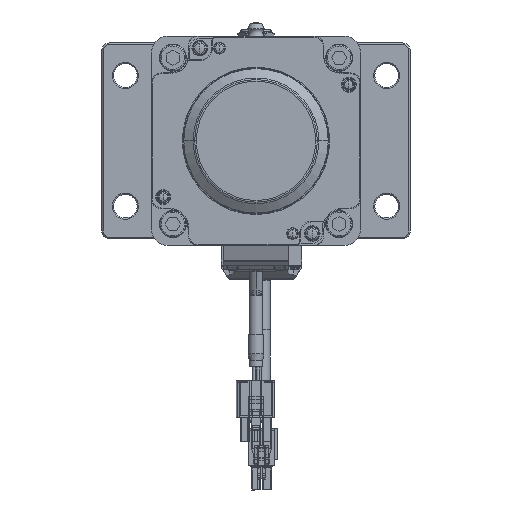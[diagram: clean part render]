
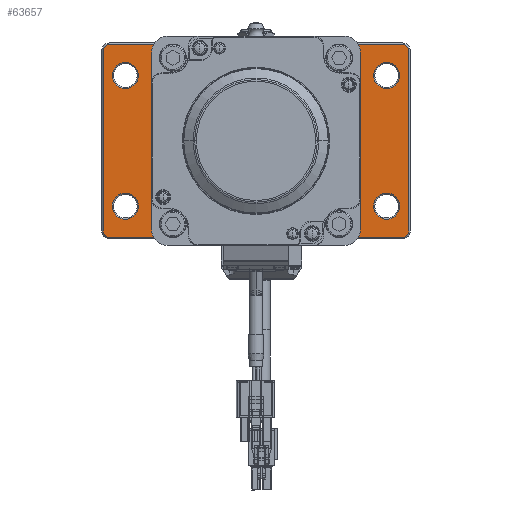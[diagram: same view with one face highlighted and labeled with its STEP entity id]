
A CAD part, front view. The second image highlights one B-rep face of the part: STEP entity #63657.
In plain terms, the highlighted planar face has unit normal (0, -1, 0).
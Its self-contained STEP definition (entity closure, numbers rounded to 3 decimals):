
#62324=CARTESIAN_POINT('',(0.,-6.,0.));
#62325=DIRECTION('',(0.,1.,0.));
#62326=DIRECTION('',(-1.,0.,0.));
#62327=AXIS2_PLACEMENT_3D('',#62324,#62325,#62326);
#62329=CARTESIAN_POINT('',(0.,-6.,0.));
#62330=DIRECTION('',(0.,1.,0.));
#62331=DIRECTION('',(1.,0.,0.));
#62332=AXIS2_PLACEMENT_3D('',#62329,#62330,#62331);
#62334=CARTESIAN_POINT('',(-50.,-6.,25.));
#62335=DIRECTION('',(0.,1.,0.));
#62336=DIRECTION('',(1.,0.,0.));
#62337=AXIS2_PLACEMENT_3D('',#62334,#62335,#62336);
#62339=CARTESIAN_POINT('',(-50.,-6.,25.));
#62340=DIRECTION('',(0.,1.,0.));
#62341=DIRECTION('',(-1.,0.,0.));
#62342=AXIS2_PLACEMENT_3D('',#62339,#62340,#62341);
#62344=CARTESIAN_POINT('',(50.,-6.,25.));
#62345=DIRECTION('',(0.,1.,0.));
#62346=DIRECTION('',(1.,0.,0.));
#62347=AXIS2_PLACEMENT_3D('',#62344,#62345,#62346);
#62349=CARTESIAN_POINT('',(50.,-6.,25.));
#62350=DIRECTION('',(0.,1.,0.));
#62351=DIRECTION('',(-1.,0.,0.));
#62352=AXIS2_PLACEMENT_3D('',#62349,#62350,#62351);
#62354=CARTESIAN_POINT('',(50.,-6.,-25.));
#62355=DIRECTION('',(0.,1.,0.));
#62356=DIRECTION('',(1.,0.,0.));
#62357=AXIS2_PLACEMENT_3D('',#62354,#62355,#62356);
#62359=CARTESIAN_POINT('',(50.,-6.,-25.));
#62360=DIRECTION('',(0.,1.,0.));
#62361=DIRECTION('',(-1.,0.,0.));
#62362=AXIS2_PLACEMENT_3D('',#62359,#62360,#62361);
#62364=CARTESIAN_POINT('',(-50.,-6.,-25.));
#62365=DIRECTION('',(0.,1.,0.));
#62366=DIRECTION('',(1.,0.,0.));
#62367=AXIS2_PLACEMENT_3D('',#62364,#62365,#62366);
#62369=CARTESIAN_POINT('',(-50.,-6.,-25.));
#62370=DIRECTION('',(0.,1.,0.));
#62371=DIRECTION('',(-1.,0.,0.));
#62372=AXIS2_PLACEMENT_3D('',#62369,#62370,#62371);
#62374=CARTESIAN_POINT('',(-56.,-6.,34.5));
#62375=DIRECTION('',(0.,-1.,0.));
#62376=DIRECTION('',(0.,0.,1.));
#62377=AXIS2_PLACEMENT_3D('',#62374,#62375,#62376);
#62379=DIRECTION('',(-1.,0.,0.));
#62380=VECTOR('',#62379,112.);
#62381=CARTESIAN_POINT('',(56.,-6.,
37.));
#62382=LINE('',#62381,#62380);
#62383=CARTESIAN_POINT('',(56.,-6.,34.5));
#62384=DIRECTION('',(0.,-1.,0.));
#62385=DIRECTION('',(1.,0.,0.));
#62386=AXIS2_PLACEMENT_3D('',#62383,#62384,#62385);
#62388=DIRECTION('',(0.,0.,1.));
#62389=VECTOR('',#62388,69.);
#62390=CARTESIAN_POINT('',(58.5,-6.,
-34.5));
#62391=LINE('',#62390,#62389);
#62392=CARTESIAN_POINT('',(56.,-6.,-34.5));
#62393=DIRECTION('',(0.,-1.,0.));
#62394=DIRECTION('',(0.,0.,-1.));
#62395=AXIS2_PLACEMENT_3D('',#62392,#62393,#62394);
#62397=DIRECTION('',(1.,0.,0.));
#62398=VECTOR('',#62397,112.);
#62399=CARTESIAN_POINT('',(-56.,-6.,
-37.));
#62400=LINE('',#62399,#62398);
#62401=CARTESIAN_POINT('',(-56.,-6.,-34.5));
#62402=DIRECTION('',(0.,-1.,0.));
#62403=DIRECTION('',(-1.,0.,0.));
#62404=AXIS2_PLACEMENT_3D('',#62401,#62402,#62403);
#62406=DIRECTION('',(0.,0.,-1.));
#62407=VECTOR('',#62406,69.);
#62408=CARTESIAN_POINT('',(-58.5,-6.,
34.5));
#62409=LINE('',#62408,#62407);
#62410=CARTESIAN_POINT('',(28.25,-6.,-28.25));
#62411=DIRECTION('',(0.,1.,0.));
#62412=DIRECTION('',(1.,0.,0.));
#62413=AXIS2_PLACEMENT_3D('',#62410,#62411,#62412);
#62415=CARTESIAN_POINT('',(28.25,-6.,-28.25));
#62416=DIRECTION('',(0.,1.,0.));
#62417=DIRECTION('',(-1.,0.,0.));
#62418=AXIS2_PLACEMENT_3D('',#62415,#62416,#62417);
#62420=CARTESIAN_POINT('',(-28.25,-6.,-28.25));
#62421=DIRECTION('',(0.,1.,0.));
#62422=DIRECTION('',(1.,0.,0.));
#62423=AXIS2_PLACEMENT_3D('',#62420,#62421,#62422);
#62425=CARTESIAN_POINT('',(-28.25,-6.,-28.25));
#62426=DIRECTION('',(0.,1.,0.));
#62427=DIRECTION('',(-1.,0.,0.));
#62428=AXIS2_PLACEMENT_3D('',#62425,#62426,#62427);
#62430=CARTESIAN_POINT('',(28.25,-6.,28.25));
#62431=DIRECTION('',(0.,1.,0.));
#62432=DIRECTION('',(1.,0.,0.));
#62433=AXIS2_PLACEMENT_3D('',#62430,#62431,#62432);
#62435=CARTESIAN_POINT('',(28.25,-6.,28.25));
#62436=DIRECTION('',(0.,1.,0.));
#62437=DIRECTION('',(-1.,0.,0.));
#62438=AXIS2_PLACEMENT_3D('',#62435,#62436,#62437);
#62440=CARTESIAN_POINT('',(-28.25,-6.,28.25));
#62441=DIRECTION('',(0.,1.,0.));
#62442=DIRECTION('',(1.,0.,0.));
#62443=AXIS2_PLACEMENT_3D('',#62440,#62441,#62442);
#62445=CARTESIAN_POINT('',(-28.25,-6.,28.25));
#62446=DIRECTION('',(0.,1.,0.));
#62447=DIRECTION('',(-1.,0.,0.));
#62448=AXIS2_PLACEMENT_3D('',#62445,#62446,#62447);
#63332=CARTESIAN_POINT('',(-28.25,-6.,0.));
#63333=CARTESIAN_POINT('',(28.25,-6.,0.));
#63334=VERTEX_POINT('',#63332);
#63335=VERTEX_POINT('',#63333);
#63372=CARTESIAN_POINT('',(-45.,-6.,25.));
#63373=CARTESIAN_POINT('',(-55.,-6.,25.));
#63374=VERTEX_POINT('',#63372);
#63375=VERTEX_POINT('',#63373);
#63380=CARTESIAN_POINT('',(55.,-6.,25.));
#63381=CARTESIAN_POINT('',(45.,-6.,25.));
#63382=VERTEX_POINT('',#63380);
#63383=VERTEX_POINT('',#63381);
#63388=CARTESIAN_POINT('',(55.,-6.,-25.));
#63389=CARTESIAN_POINT('',(45.,-6.,-25.));
#63390=VERTEX_POINT('',#63388);
#63391=VERTEX_POINT('',#63389);
#63396=CARTESIAN_POINT('',(-45.,-6.,-25.));
#63397=CARTESIAN_POINT('',(-55.,-6.,-25.));
#63398=VERTEX_POINT('',#63396);
#63399=VERTEX_POINT('',#63397);
#63404=CARTESIAN_POINT('',(-56.,-6.,37.));
#63405=CARTESIAN_POINT('',(-58.5,-6.,34.5));
#63406=VERTEX_POINT('',#63404);
#63407=VERTEX_POINT('',#63405);
#63412=CARTESIAN_POINT('',(-58.5,-6.,
-34.5));
#63413=VERTEX_POINT('',#63412);
#63416=CARTESIAN_POINT('',(-56.,-6.,-37.));
#63417=VERTEX_POINT('',#63416);
#63420=CARTESIAN_POINT('',(56.,-6.,
-37.));
#63421=VERTEX_POINT('',#63420);
#63424=CARTESIAN_POINT('',(58.5,-6.,-34.5));
#63425=VERTEX_POINT('',#63424);
#63428=CARTESIAN_POINT('',(58.5,-6.,
34.5));
#63429=VERTEX_POINT('',#63428);
#63432=CARTESIAN_POINT('',(56.,-6.,37.));
#63433=VERTEX_POINT('',#63432);
#63484=CARTESIAN_POINT('',(33.05,-6.,-28.25));
#63485=CARTESIAN_POINT('',(23.45,-6.,-28.25));
#63486=VERTEX_POINT('',#63484);
#63487=VERTEX_POINT('',#63485);
#63492=CARTESIAN_POINT('',(-23.45,-6.,-28.25));
#63493=CARTESIAN_POINT('',(-33.05,-6.,-28.25));
#63494=VERTEX_POINT('',#63492);
#63495=VERTEX_POINT('',#63493);
#63500=CARTESIAN_POINT('',(33.05,-6.,28.25));
#63501=CARTESIAN_POINT('',(23.45,-6.,28.25));
#63502=VERTEX_POINT('',#63500);
#63503=VERTEX_POINT('',#63501);
#63508=CARTESIAN_POINT('',(-23.45,-6.,28.25));
#63509=CARTESIAN_POINT('',(-33.05,-6.,28.25));
#63510=VERTEX_POINT('',#63508);
#63511=VERTEX_POINT('',#63509);
#63580=CARTESIAN_POINT('',(0.,-6.,0.));
#63581=DIRECTION('',(0.,1.,0.));
#63582=DIRECTION('',(1.,0.,0.));
#63583=AXIS2_PLACEMENT_3D('',#63580,#63581,#63582);
#63584=PLANE('',#63583);
#63586=ORIENTED_EDGE('',*,*,#63585,.F.);
#63588=ORIENTED_EDGE('',*,*,#63587,.F.);
#63590=ORIENTED_EDGE('',*,*,#63589,.F.);
#63592=ORIENTED_EDGE('',*,*,#63591,.F.);
#63594=ORIENTED_EDGE('',*,*,#63593,.F.);
#63596=ORIENTED_EDGE('',*,*,#63595,.F.);
#63598=ORIENTED_EDGE('',*,*,#63597,.F.);
#63600=ORIENTED_EDGE('',*,*,#63599,.F.);
#63601=EDGE_LOOP('',(#63586,#63588,#63590,#63592,#63594,#63596,#63598,#63600));
#63602=FACE_OUTER_BOUND('',#63601,.F.);
#63604=ORIENTED_EDGE('',*,*,#63603,.F.);
#63606=ORIENTED_EDGE('',*,*,#63605,.F.);
#63607=EDGE_LOOP('',(#63604,#63606));
#63608=FACE_BOUND('',#63607,.F.);
#63610=ORIENTED_EDGE('',*,*,#63609,.F.);
#63612=ORIENTED_EDGE('',*,*,#63611,.F.);
#63613=EDGE_LOOP('',(#63610,#63612));
#63614=FACE_BOUND('',#63613,.F.);
#63616=ORIENTED_EDGE('',*,*,#63615,.F.);
#63618=ORIENTED_EDGE('',*,*,#63617,.F.);
#63619=EDGE_LOOP('',(#63616,#63618));
#63620=FACE_BOUND('',#63619,.F.);
#63622=ORIENTED_EDGE('',*,*,#63621,.F.);
#63624=ORIENTED_EDGE('',*,*,#63623,.F.);
#63625=EDGE_LOOP('',(#63622,#63624));
#63626=FACE_BOUND('',#63625,.F.);
#63628=ORIENTED_EDGE('',*,*,#63627,.F.);
#63630=ORIENTED_EDGE('',*,*,#63629,.F.);
#63631=EDGE_LOOP('',(#63628,#63630));
#63632=FACE_BOUND('',#63631,.F.);
#63634=ORIENTED_EDGE('',*,*,#63633,.F.);
#63636=ORIENTED_EDGE('',*,*,#63635,.F.);
#63637=EDGE_LOOP('',(#63634,#63636));
#63638=FACE_BOUND('',#63637,.F.);
#63640=ORIENTED_EDGE('',*,*,#63639,.F.);
#63642=ORIENTED_EDGE('',*,*,#63641,.F.);
#63643=EDGE_LOOP('',(#63640,#63642));
#63644=FACE_BOUND('',#63643,.F.);
#63646=ORIENTED_EDGE('',*,*,#63645,.F.);
#63648=ORIENTED_EDGE('',*,*,#63647,.F.);
#63649=EDGE_LOOP('',(#63646,#63648));
#63650=FACE_BOUND('',#63649,.F.);
#63652=ORIENTED_EDGE('',*,*,#63651,.F.);
#63654=ORIENTED_EDGE('',*,*,#63653,.F.);
#63655=EDGE_LOOP('',(#63652,#63654));
#63656=FACE_BOUND('',#63655,.F.);
#63657=ADVANCED_FACE('',(#63602,#63608,#63614,#63620,#63626,#63632,#63638,
#63644,#63650,#63656),#63584,.F.);
#62328=CIRCLE('',#62327,28.25);
#62333=CIRCLE('',#62332,28.25);
#62338=CIRCLE('',#62337,5.);
#62343=CIRCLE('',#62342,5.);
#62348=CIRCLE('',#62347,5.);
#62353=CIRCLE('',#62352,5.);
#62358=CIRCLE('',#62357,5.);
#62363=CIRCLE('',#62362,5.);
#62368=CIRCLE('',#62367,5.);
#62373=CIRCLE('',#62372,5.);
#62378=CIRCLE('',#62377,2.5);
#62387=CIRCLE('',#62386,2.5);
#62396=CIRCLE('',#62395,2.5);
#62405=CIRCLE('',#62404,2.5);
#62414=CIRCLE('',#62413,4.8);
#62419=CIRCLE('',#62418,4.8);
#62424=CIRCLE('',#62423,4.8);
#62429=CIRCLE('',#62428,4.8);
#62434=CIRCLE('',#62433,4.8);
#62439=CIRCLE('',#62438,4.8);
#62444=CIRCLE('',#62443,4.8);
#62449=CIRCLE('',#62448,4.8);
#63585=EDGE_CURVE('',#63406,#63407,#62378,.T.);
#63587=EDGE_CURVE('',#63433,#63406,#62382,.T.);
#63589=EDGE_CURVE('',#63429,#63433,#62387,.T.);
#63591=EDGE_CURVE('',#63425,#63429,#62391,.T.);
#63593=EDGE_CURVE('',#63421,#63425,#62396,.T.);
#63595=EDGE_CURVE('',#63417,#63421,#62400,.T.);
#63597=EDGE_CURVE('',#63413,#63417,#62405,.T.);
#63599=EDGE_CURVE('',#63407,#63413,#62409,.T.);
#63603=EDGE_CURVE('',#63374,#63375,#62338,.T.);
#63605=EDGE_CURVE('',#63375,#63374,#62343,.T.);
#63609=EDGE_CURVE('',#63382,#63383,#62348,.T.);
#63611=EDGE_CURVE('',#63383,#63382,#62353,.T.);
#63615=EDGE_CURVE('',#63390,#63391,#62358,.T.);
#63617=EDGE_CURVE('',#63391,#63390,#62363,.T.);
#63621=EDGE_CURVE('',#63398,#63399,#62368,.T.);
#63623=EDGE_CURVE('',#63399,#63398,#62373,.T.);
#63627=EDGE_CURVE('',#63334,#63335,#62328,.T.);
#63629=EDGE_CURVE('',#63335,#63334,#62333,.T.);
#63633=EDGE_CURVE('',#63486,#63487,#62414,.T.);
#63635=EDGE_CURVE('',#63487,#63486,#62419,.T.);
#63639=EDGE_CURVE('',#63494,#63495,#62424,.T.);
#63641=EDGE_CURVE('',#63495,#63494,#62429,.T.);
#63645=EDGE_CURVE('',#63502,#63503,#62434,.T.);
#63647=EDGE_CURVE('',#63503,#63502,#62439,.T.);
#63651=EDGE_CURVE('',#63510,#63511,#62444,.T.);
#63653=EDGE_CURVE('',#63511,#63510,#62449,.T.);
